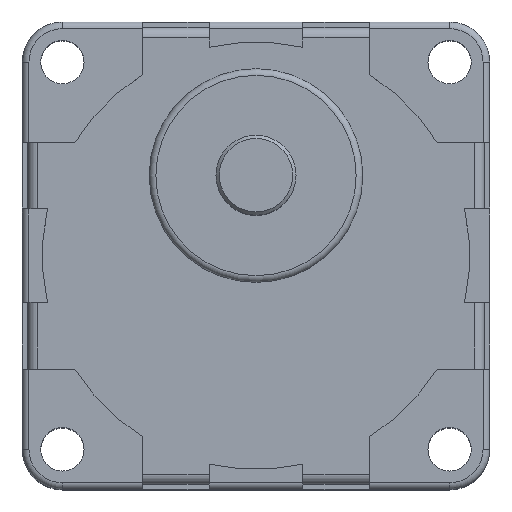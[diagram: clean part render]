
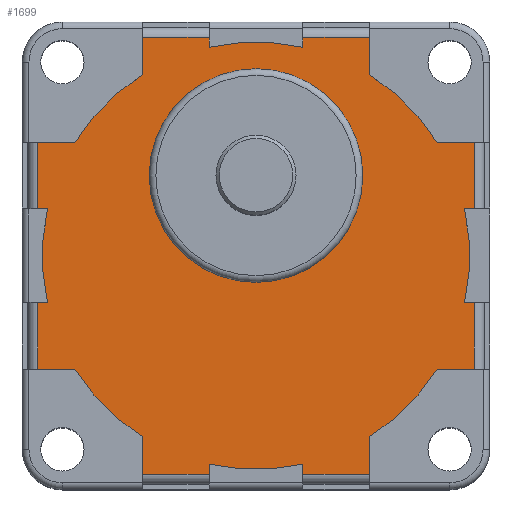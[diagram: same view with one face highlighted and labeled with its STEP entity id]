
A CAD part, top view. The second image highlights one B-rep face of the part: STEP entity #1699.
In plain terms, the highlighted planar face has unit normal (0, 0, 1).
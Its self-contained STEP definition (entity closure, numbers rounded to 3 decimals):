
#25=LINE('',#2566,#188);
#29=LINE('',#2578,#192);
#31=LINE('',#2584,#194);
#32=LINE('',#2588,#195);
#33=LINE('',#2590,#196);
#34=LINE('',#2592,#197);
#35=LINE('',#2596,#198);
#36=LINE('',#2598,#199);
#37=LINE('',#2600,#200);
#38=LINE('',#2604,#201);
#39=LINE('',#2606,#202);
#40=LINE('',#2608,#203);
#41=LINE('',#2612,#204);
#42=LINE('',#2614,#205);
#43=LINE('',#2616,#206);
#44=LINE('',#2620,#207);
#45=LINE('',#2622,#208);
#46=LINE('',#2624,#209);
#47=LINE('',#2628,#210);
#48=LINE('',#2630,#211);
#49=LINE('',#2632,#212);
#50=LINE('',#2635,#213);
#51=LINE('',#2637,#214);
#52=LINE('',#2640,#215);
#188=VECTOR('',#2044,10.);
#192=VECTOR('',#2054,10.);
#194=VECTOR('',#2060,5.589);
#195=VECTOR('',#2063,5.589);
#196=VECTOR('',#2064,10.);
#197=VECTOR('',#2065,1.475);
#198=VECTOR('',#2068,1.475);
#199=VECTOR('',#2069,10.);
#200=VECTOR('',#2070,5.589);
#201=VECTOR('',#2073,5.589);
#202=VECTOR('',#2074,10.);
#203=VECTOR('',#2075,1.475);
#204=VECTOR('',#2078,1.475);
#205=VECTOR('',#2079,10.);
#206=VECTOR('',#2080,5.589);
#207=VECTOR('',#2083,5.589);
#208=VECTOR('',#2084,10.);
#209=VECTOR('',#2085,1.475);
#210=VECTOR('',#2088,1.475);
#211=VECTOR('',#2089,10.);
#212=VECTOR('',#2090,5.589);
#213=VECTOR('',#2093,5.589);
#214=VECTOR('',#2094,1.475);
#215=VECTOR('',#2097,1.475);
#352=PLANE('',#1822);
#450=FACE_BOUND('',#588,.T.);
#475=FACE_OUTER_BOUND('',#587,.T.);
#587=EDGE_LOOP('',(#1229,#1230,#1231,#1232,#1233,#1234,#1235,#1236,#1237,
#1238,#1239,#1240,#1241,#1242,#1243,#1244,#1245,#1246,#1247,#1248,#1249,
#1250,#1251,#1252,#1253,#1254,#1255,#1256,#1257,#1258,#1259,#1260));
#588=EDGE_LOOP('',(#1261));
#696=CIRCLE('',#1813,16.);
#701=CIRCLE('',#1823,32.);
#702=CIRCLE('',#1824,32.);
#703=CIRCLE('',#1825,32.);
#704=CIRCLE('',#1826,32.);
#705=CIRCLE('',#1827,32.);
#706=CIRCLE('',#1828,32.);
#707=CIRCLE('',#1829,32.);
#708=CIRCLE('',#1830,32.);
#786=VERTEX_POINT('',#2555);
#787=VERTEX_POINT('',#2559);
#790=VERTEX_POINT('',#2564);
#794=VERTEX_POINT('',#2575);
#795=VERTEX_POINT('',#2577);
#797=VERTEX_POINT('',#2583);
#798=VERTEX_POINT('',#2585);
#799=VERTEX_POINT('',#2587);
#800=VERTEX_POINT('',#2589);
#801=VERTEX_POINT('',#2591);
#802=VERTEX_POINT('',#2593);
#803=VERTEX_POINT('',#2595);
#804=VERTEX_POINT('',#2597);
#805=VERTEX_POINT('',#2599);
#806=VERTEX_POINT('',#2601);
#807=VERTEX_POINT('',#2603);
#808=VERTEX_POINT('',#2605);
#809=VERTEX_POINT('',#2607);
#810=VERTEX_POINT('',#2609);
#811=VERTEX_POINT('',#2611);
#812=VERTEX_POINT('',#2613);
#813=VERTEX_POINT('',#2615);
#814=VERTEX_POINT('',#2617);
#815=VERTEX_POINT('',#2619);
#816=VERTEX_POINT('',#2621);
#817=VERTEX_POINT('',#2623);
#818=VERTEX_POINT('',#2625);
#819=VERTEX_POINT('',#2627);
#820=VERTEX_POINT('',#2629);
#821=VERTEX_POINT('',#2631);
#822=VERTEX_POINT('',#2633);
#823=VERTEX_POINT('',#2636);
#824=VERTEX_POINT('',#2638);
#956=EDGE_CURVE('',#786,#786,#696,.T.);
#960=EDGE_CURVE('',#790,#787,#25,.T.);
#965=EDGE_CURVE('',#794,#795,#29,.T.);
#968=EDGE_CURVE('',#790,#797,#31,.T.);
#969=EDGE_CURVE('',#798,#797,#701,.T.);
#970=EDGE_CURVE('',#799,#798,#32,.T.);
#971=EDGE_CURVE('',#800,#799,#33,.T.);
#972=EDGE_CURVE('',#801,#800,#34,.T.);
#973=EDGE_CURVE('',#802,#801,#702,.T.);
#974=EDGE_CURVE('',#802,#803,#35,.T.);
#975=EDGE_CURVE('',#804,#803,#36,.T.);
#976=EDGE_CURVE('',#804,#805,#37,.T.);
#977=EDGE_CURVE('',#806,#805,#703,.T.);
#978=EDGE_CURVE('',#807,#806,#38,.T.);
#979=EDGE_CURVE('',#808,#807,#39,.T.);
#980=EDGE_CURVE('',#809,#808,#40,.T.);
#981=EDGE_CURVE('',#810,#809,#704,.T.);
#982=EDGE_CURVE('',#810,#811,#41,.T.);
#983=EDGE_CURVE('',#812,#811,#42,.T.);
#984=EDGE_CURVE('',#812,#813,#43,.T.);
#985=EDGE_CURVE('',#814,#813,#705,.T.);
#986=EDGE_CURVE('',#815,#814,#44,.T.);
#987=EDGE_CURVE('',#816,#815,#45,.T.);
#988=EDGE_CURVE('',#817,#816,#46,.T.);
#989=EDGE_CURVE('',#818,#817,#706,.T.);
#990=EDGE_CURVE('',#818,#819,#47,.T.);
#991=EDGE_CURVE('',#820,#819,#48,.T.);
#992=EDGE_CURVE('',#820,#821,#49,.T.);
#993=EDGE_CURVE('',#822,#821,#707,.T.);
#994=EDGE_CURVE('',#795,#822,#50,.T.);
#995=EDGE_CURVE('',#823,#794,#51,.T.);
#996=EDGE_CURVE('',#824,#823,#708,.T.);
#997=EDGE_CURVE('',#824,#787,#52,.T.);
#1229=ORIENTED_EDGE('',*,*,#960,.F.);
#1230=ORIENTED_EDGE('',*,*,#968,.T.);
#1231=ORIENTED_EDGE('',*,*,#969,.F.);
#1232=ORIENTED_EDGE('',*,*,#970,.F.);
#1233=ORIENTED_EDGE('',*,*,#971,.F.);
#1234=ORIENTED_EDGE('',*,*,#972,.F.);
#1235=ORIENTED_EDGE('',*,*,#973,.F.);
#1236=ORIENTED_EDGE('',*,*,#974,.T.);
#1237=ORIENTED_EDGE('',*,*,#975,.F.);
#1238=ORIENTED_EDGE('',*,*,#976,.T.);
#1239=ORIENTED_EDGE('',*,*,#977,.F.);
#1240=ORIENTED_EDGE('',*,*,#978,.F.);
#1241=ORIENTED_EDGE('',*,*,#979,.F.);
#1242=ORIENTED_EDGE('',*,*,#980,.F.);
#1243=ORIENTED_EDGE('',*,*,#981,.F.);
#1244=ORIENTED_EDGE('',*,*,#982,.T.);
#1245=ORIENTED_EDGE('',*,*,#983,.F.);
#1246=ORIENTED_EDGE('',*,*,#984,.T.);
#1247=ORIENTED_EDGE('',*,*,#985,.F.);
#1248=ORIENTED_EDGE('',*,*,#986,.F.);
#1249=ORIENTED_EDGE('',*,*,#987,.F.);
#1250=ORIENTED_EDGE('',*,*,#988,.F.);
#1251=ORIENTED_EDGE('',*,*,#989,.F.);
#1252=ORIENTED_EDGE('',*,*,#990,.T.);
#1253=ORIENTED_EDGE('',*,*,#991,.F.);
#1254=ORIENTED_EDGE('',*,*,#992,.T.);
#1255=ORIENTED_EDGE('',*,*,#993,.F.);
#1256=ORIENTED_EDGE('',*,*,#994,.F.);
#1257=ORIENTED_EDGE('',*,*,#965,.F.);
#1258=ORIENTED_EDGE('',*,*,#995,.F.);
#1259=ORIENTED_EDGE('',*,*,#996,.F.);
#1260=ORIENTED_EDGE('',*,*,#997,.T.);
#1261=ORIENTED_EDGE('',*,*,#956,.F.);
#1699=ADVANCED_FACE('',(#475,#450),#352,.T.);
#1813=AXIS2_PLACEMENT_3D('',#2556,#2033,#2034);
#1822=AXIS2_PLACEMENT_3D('',#2582,#2058,#2059);
#1823=AXIS2_PLACEMENT_3D('',#2586,#2061,#2062);
#1824=AXIS2_PLACEMENT_3D('',#2594,#2066,#2067);
#1825=AXIS2_PLACEMENT_3D('',#2602,#2071,#2072);
#1826=AXIS2_PLACEMENT_3D('',#2610,#2076,#2077);
#1827=AXIS2_PLACEMENT_3D('',#2618,#2081,#2082);
#1828=AXIS2_PLACEMENT_3D('',#2626,#2086,#2087);
#1829=AXIS2_PLACEMENT_3D('',#2634,#2091,#2092);
#1830=AXIS2_PLACEMENT_3D('',#2639,#2095,#2096);
#2033=DIRECTION('center_axis',(0.,0.,1.));
#2034=DIRECTION('ref_axis',(-1.,0.,0.));
#2044=DIRECTION('',(0.,-1.,0.));
#2054=DIRECTION('',(0.,-1.,0.));
#2058=DIRECTION('center_axis',(0.,0.,1.));
#2059=DIRECTION('ref_axis',(1.,0.,0.));
#2060=DIRECTION('',(-1.,0.,0.));
#2061=DIRECTION('center_axis',(0.,0.,-1.));
#2062=DIRECTION('ref_axis',(-1.,0.,0.));
#2063=DIRECTION('',(0.,-1.,0.));
#2064=DIRECTION('',(1.,0.,0.));
#2065=DIRECTION('',(0.,1.,0.));
#2066=DIRECTION('center_axis',(0.,0.,-1.));
#2067=DIRECTION('ref_axis',(-1.,0.,0.));
#2068=DIRECTION('',(0.,1.,0.));
#2069=DIRECTION('',(1.,0.,0.));
#2070=DIRECTION('',(0.,-1.,0.));
#2071=DIRECTION('center_axis',(0.,0.,-1.));
#2072=DIRECTION('ref_axis',(-1.,0.,0.));
#2073=DIRECTION('',(1.,0.,0.));
#2074=DIRECTION('',(0.,1.,0.));
#2075=DIRECTION('',(-1.,0.,0.));
#2076=DIRECTION('center_axis',(0.,0.,-1.));
#2077=DIRECTION('ref_axis',(-1.,0.,0.));
#2078=DIRECTION('',(-1.,0.,0.));
#2079=DIRECTION('',(0.,1.,0.));
#2080=DIRECTION('',(1.,0.,0.));
#2081=DIRECTION('center_axis',(0.,0.,-1.));
#2082=DIRECTION('ref_axis',(-1.,0.,0.));
#2083=DIRECTION('',(0.,1.,0.));
#2084=DIRECTION('',(-1.,0.,0.));
#2085=DIRECTION('',(0.,-1.,0.));
#2086=DIRECTION('center_axis',(0.,0.,-1.));
#2087=DIRECTION('ref_axis',(-1.,0.,0.));
#2088=DIRECTION('',(0.,-1.,0.));
#2089=DIRECTION('',(-1.,0.,0.));
#2090=DIRECTION('',(0.,1.,0.));
#2091=DIRECTION('center_axis',(0.,0.,-1.));
#2092=DIRECTION('ref_axis',(-1.,0.,0.));
#2093=DIRECTION('',(-1.,0.,0.));
#2094=DIRECTION('',(1.,0.,0.));
#2095=DIRECTION('center_axis',(0.,0.,-1.));
#2096=DIRECTION('ref_axis',(-1.,0.,0.));
#2097=DIRECTION('',(1.,0.,0.));
#2555=CARTESIAN_POINT('',(16.,12.,47.2));
#2556=CARTESIAN_POINT('Origin',(0.,12.,47.2));
#2559=CARTESIAN_POINT('',(32.7,7.,47.2));
#2564=CARTESIAN_POINT('',(32.7,17.,47.2));
#2566=CARTESIAN_POINT('',(32.7,8.5,47.2));
#2575=CARTESIAN_POINT('',(32.7,-7.,47.2));
#2577=CARTESIAN_POINT('',(32.7,-17.,47.2));
#2578=CARTESIAN_POINT('',(32.7,-8.5,47.2));
#2582=CARTESIAN_POINT('Origin',(0.,0.,47.2));
#2583=CARTESIAN_POINT('',(27.111,17.,47.2));
#2584=CARTESIAN_POINT('',(27.111,17.,47.2));
#2585=CARTESIAN_POINT('',(17.,27.111,47.2));
#2586=CARTESIAN_POINT('Origin',(0.,0.,47.2));
#2587=CARTESIAN_POINT('',(17.,32.7,47.2));
#2588=CARTESIAN_POINT('',(17.,27.111,47.2));
#2589=CARTESIAN_POINT('',(7.,32.7,47.2));
#2590=CARTESIAN_POINT('',(8.5,32.7,47.2));
#2591=CARTESIAN_POINT('',(7.,31.225,47.2));
#2592=CARTESIAN_POINT('',(7.,35.,47.2));
#2593=CARTESIAN_POINT('',(-7.,31.225,47.2));
#2594=CARTESIAN_POINT('Origin',(0.,0.,47.2));
#2595=CARTESIAN_POINT('',(-7.,32.7,47.2));
#2596=CARTESIAN_POINT('',(-7.,35.,47.2));
#2597=CARTESIAN_POINT('',(-17.,32.7,47.2));
#2598=CARTESIAN_POINT('',(-8.5,32.7,47.2));
#2599=CARTESIAN_POINT('',(-17.,27.111,47.2));
#2600=CARTESIAN_POINT('',(-17.,27.111,47.2));
#2601=CARTESIAN_POINT('',(-27.111,17.,47.2));
#2602=CARTESIAN_POINT('Origin',(0.,0.,47.2));
#2603=CARTESIAN_POINT('',(-32.7,17.,47.2));
#2604=CARTESIAN_POINT('',(-27.111,17.,47.2));
#2605=CARTESIAN_POINT('',(-32.7,7.,47.2));
#2606=CARTESIAN_POINT('',(-32.7,8.5,47.2));
#2607=CARTESIAN_POINT('',(-31.225,7.,47.2));
#2608=CARTESIAN_POINT('',(-35.,7.,47.2));
#2609=CARTESIAN_POINT('',(-31.225,-7.,47.2));
#2610=CARTESIAN_POINT('Origin',(0.,0.,47.2));
#2611=CARTESIAN_POINT('',(-32.7,-7.,47.2));
#2612=CARTESIAN_POINT('',(-35.,-7.,47.2));
#2613=CARTESIAN_POINT('',(-32.7,-17.,47.2));
#2614=CARTESIAN_POINT('',(-32.7,-8.5,47.2));
#2615=CARTESIAN_POINT('',(-27.111,-17.,47.2));
#2616=CARTESIAN_POINT('',(-27.111,-17.,47.2));
#2617=CARTESIAN_POINT('',(-17.,-27.111,47.2));
#2618=CARTESIAN_POINT('Origin',(0.,0.,47.2));
#2619=CARTESIAN_POINT('',(-17.,-32.7,47.2));
#2620=CARTESIAN_POINT('',(-17.,-27.111,47.2));
#2621=CARTESIAN_POINT('',(-7.,-32.7,47.2));
#2622=CARTESIAN_POINT('',(-8.5,-32.7,47.2));
#2623=CARTESIAN_POINT('',(-7.,-31.225,47.2));
#2624=CARTESIAN_POINT('',(-7.,-35.,47.2));
#2625=CARTESIAN_POINT('',(7.,-31.225,47.2));
#2626=CARTESIAN_POINT('Origin',(0.,0.,47.2));
#2627=CARTESIAN_POINT('',(7.,-32.7,47.2));
#2628=CARTESIAN_POINT('',(7.,-35.,47.2));
#2629=CARTESIAN_POINT('',(17.,-32.7,47.2));
#2630=CARTESIAN_POINT('',(8.5,-32.7,47.2));
#2631=CARTESIAN_POINT('',(17.,-27.111,47.2));
#2632=CARTESIAN_POINT('',(17.,-27.111,47.2));
#2633=CARTESIAN_POINT('',(27.111,-17.,47.2));
#2634=CARTESIAN_POINT('Origin',(0.,0.,47.2));
#2635=CARTESIAN_POINT('',(27.111,-17.,47.2));
#2636=CARTESIAN_POINT('',(31.225,-7.,47.2));
#2637=CARTESIAN_POINT('',(35.,-7.,47.2));
#2638=CARTESIAN_POINT('',(31.225,7.,47.2));
#2639=CARTESIAN_POINT('Origin',(0.,0.,47.2));
#2640=CARTESIAN_POINT('',(35.,7.,47.2));
